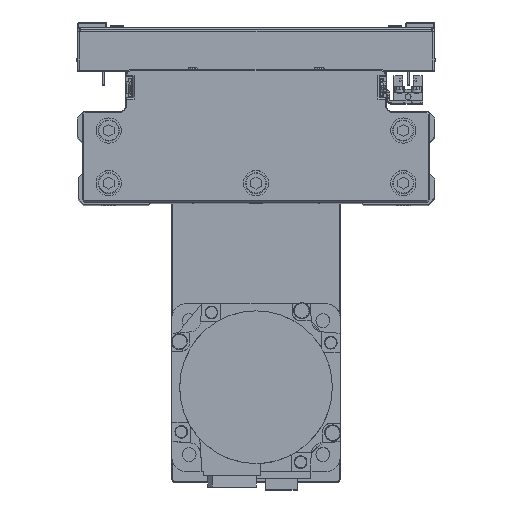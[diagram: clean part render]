
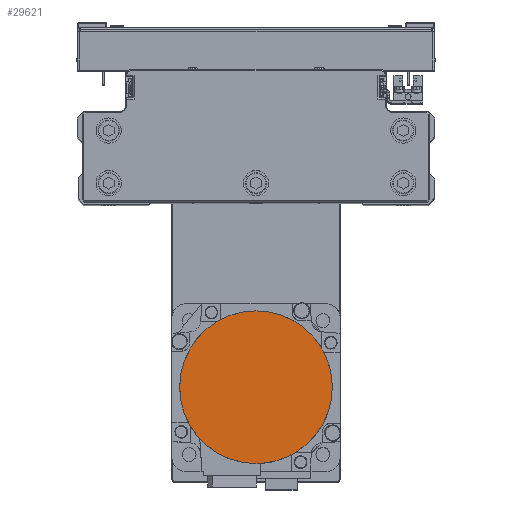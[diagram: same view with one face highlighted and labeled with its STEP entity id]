
A CAD part, top view. The second image highlights one B-rep face of the part: STEP entity #29621.
In plain terms, the highlighted planar face has unit normal (0, 0, 1) as drawn and (0, 0, -1) by its records, which use the part's own axes.
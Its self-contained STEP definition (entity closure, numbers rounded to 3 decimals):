
#630 = ORIENTED_EDGE ( 'NONE', *, *, #15516, .F. ) ;
#635 = CARTESIAN_POINT ( 'NONE',  ( -36.3, 0., -122.2 ) ) ;
#760 = AXIS2_PLACEMENT_3D ( 'NONE', #37415, #7001, #20517 ) ;
#856 = CARTESIAN_POINT ( 'NONE',  ( -11.696, -34.446, -122.2 ) ) ;
#2353 = CARTESIAN_POINT ( 'NONE',  ( -32.628, 16.086, -122.2 ) ) ;
#2495 = VERTEX_POINT ( 'NONE', #17034 ) ;
#2836 = CIRCLE ( 'NONE', #27627, 36.3 ) ;
#4177 = CARTESIAN_POINT ( 'NONE',  ( -22.143, -28.862, -122.2 ) ) ;
#5674 = CARTESIAN_POINT ( 'NONE',  ( -27.348, 23.988, -122.2 ) ) ;
#7001 = DIRECTION ( 'NONE',  ( 0., 0., 1. ) ) ;
#7522 = CARTESIAN_POINT ( 'NONE',  ( -28.862, -22.143, -122.2 ) ) ;
#9007 = CARTESIAN_POINT ( 'NONE',  ( -18.192, 31.502, -122.2 ) ) ;
#10336 = CARTESIAN_POINT ( 'NONE',  ( 36.3, 0., -122.2 ) ) ;
#10349 = FACE_OUTER_BOUND ( 'NONE', #10976, .T. ) ;
#10866 = CARTESIAN_POINT ( 'NONE',  ( -34.446, -11.696, -122.2 ) ) ;
#10976 = EDGE_LOOP ( 'NONE', ( #630, #17175, #14568, #23604 ) ) ;
#11084 = CARTESIAN_POINT ( 'NONE',  ( 0., -36.3, -122.2 ) ) ;
#11110 = AXIS2_PLACEMENT_3D ( 'NONE', #13316, #26839, #40392 ) ;
#12351 = CARTESIAN_POINT ( 'NONE',  ( -9.412, 35.139, -122.2 ) ) ;
#12562 = CARTESIAN_POINT ( 'NONE',  ( -36.3, 2.376, -122.2 ) ) ;
#12763 = DIRECTION ( 'NONE',  ( 0., 0., 1. ) ) ;
#13316 = CARTESIAN_POINT ( 'NONE',  ( 0., 0., -122.2 ) ) ;
#13655 = EDGE_CURVE ( 'NONE', #33750, #2495, #30232, .T. ) ;
#13741 = EDGE_CURVE ( 'NONE', #22368, #21419, #17609, .T. ) ;
#14174 = CARTESIAN_POINT ( 'NONE',  ( -36.3, -2.376, -122.2 ) ) ;
#14406 = CARTESIAN_POINT ( 'NONE',  ( -9.412, -35.139, -122.2 ) ) ;
#14568 = ORIENTED_EDGE ( 'NONE', *, *, #18984, .F. ) ;
#15516 = EDGE_CURVE ( 'NONE', #21419, #33750, #2836, .T. ) ;
#15663 = CARTESIAN_POINT ( 'NONE',  ( 0., 36.3, -122.2 ) ) ;
#15901 = CARTESIAN_POINT ( 'NONE',  ( -34.446, 11.696, -122.2 ) ) ;
#17034 = CARTESIAN_POINT ( 'NONE',  ( 0., 36.3, -122.2 ) ) ;
#17175 = ORIENTED_EDGE ( 'NONE', *, *, #13741, .F. ) ;
#17609 = B_SPLINE_CURVE_WITH_KNOTS ( 'NONE', 3,
 ( #635, #14174, #27700, #41265, #10866, #24389, #37938, #7522, #21041, #34600, #4177, #17713, #31261, #856, #14406, #27942, #41492, #11084 ),
 .UNSPECIFIED., .F., .F.,
 ( 4, 2, 2, 2, 2, 2, 2, 2, 4 ),
 ( 0., 0.125, 0.25, 0.375, 0.5, 0.625, 0.75, 0.875, 1. ),
 .UNSPECIFIED. ) ;
#17713 = CARTESIAN_POINT ( 'NONE',  ( -18.192, -31.502, -122.2 ) ) ;
#18984 = EDGE_CURVE ( 'NONE', #2495, #22368, #32114, .T. ) ;
#19196 = CARTESIAN_POINT ( 'NONE',  ( -28.862, 22.143, -122.2 ) ) ;
#20517 = DIRECTION ( 'NONE',  ( 1., 0., 0. ) ) ;
#21041 = CARTESIAN_POINT ( 'NONE',  ( -27.348, -23.988, -122.2 ) ) ;
#21419 = VERTEX_POINT ( 'NONE', #23765 ) ;
#22368 = VERTEX_POINT ( 'NONE', #28534 ) ;
#22528 = CARTESIAN_POINT ( 'NONE',  ( -22.143, 28.862, -122.2 ) ) ;
#23604 = ORIENTED_EDGE ( 'NONE', *, *, #13655, .F. ) ;
#23765 = CARTESIAN_POINT ( 'NONE',  ( 0., -36.3, -122.2 ) ) ;
#23863 = PLANE ( 'NONE',  #760 ) ;
#24389 = CARTESIAN_POINT ( 'NONE',  ( -32.628, -16.086, -122.2 ) ) ;
#25877 = CARTESIAN_POINT ( 'NONE',  ( -11.696, 34.446, -122.2 ) ) ;
#26088 = CARTESIAN_POINT ( 'NONE',  ( -36.3, 0., -122.2 ) ) ;
#26296 = DIRECTION ( 'NONE',  ( -1., 0., 0. ) ) ;
#26839 = DIRECTION ( 'NONE',  ( 0., 0., 1. ) ) ;
#27627 = AXIS2_PLACEMENT_3D ( 'NONE', #43175, #12763, #26296 ) ;
#27700 = CARTESIAN_POINT ( 'NONE',  ( -36.066, -4.752, -122.2 ) ) ;
#27942 = CARTESIAN_POINT ( 'NONE',  ( -4.752, -36.066, -122.2 ) ) ;
#28534 = CARTESIAN_POINT ( 'NONE',  ( -36.3, 0., -122.2 ) ) ;
#29198 = CARTESIAN_POINT ( 'NONE',  ( -2.376, 36.3, -122.2 ) ) ;
#29429 = CARTESIAN_POINT ( 'NONE',  ( -35.139, 9.412, -122.2 ) ) ;
#29621 = ADVANCED_FACE ( 'NONE', ( #10349 ), #23863, .F. ) ;
#30232 = CIRCLE ( 'NONE', #11110, 36.3 ) ;
#31261 = CARTESIAN_POINT ( 'NONE',  ( -16.086, -32.628, -122.2 ) ) ;
#32114 = B_SPLINE_CURVE_WITH_KNOTS ( 'NONE', 3,
 ( #15663, #29198, #42751, #12351, #25877, #39433, #9007, #22528, #36083, #5674, #19196, #32756, #2353, #15901, #29429, #42968, #12562, #26088 ),
 .UNSPECIFIED., .F., .F.,
 ( 4, 2, 2, 2, 2, 2, 2, 2, 4 ),
 ( 0., 0.125, 0.25, 0.375, 0.5, 0.625, 0.75, 0.875, 1. ),
 .UNSPECIFIED. ) ;
#32756 = CARTESIAN_POINT ( 'NONE',  ( -31.502, 18.192, -122.2 ) ) ;
#33750 = VERTEX_POINT ( 'NONE', #10336 ) ;
#34600 = CARTESIAN_POINT ( 'NONE',  ( -23.988, -27.348, -122.2 ) ) ;
#36083 = CARTESIAN_POINT ( 'NONE',  ( -23.988, 27.348, -122.2 ) ) ;
#37415 = CARTESIAN_POINT ( 'NONE',  ( 0., 0., -122.2 ) ) ;
#37938 = CARTESIAN_POINT ( 'NONE',  ( -31.502, -18.192, -122.2 ) ) ;
#39433 = CARTESIAN_POINT ( 'NONE',  ( -16.086, 32.628, -122.2 ) ) ;
#40392 = DIRECTION ( 'NONE',  ( -1., 0., 0. ) ) ;
#41265 = CARTESIAN_POINT ( 'NONE',  ( -35.139, -9.412, -122.2 ) ) ;
#41492 = CARTESIAN_POINT ( 'NONE',  ( -2.376, -36.3, -122.2 ) ) ;
#42751 = CARTESIAN_POINT ( 'NONE',  ( -4.752, 36.066, -122.2 ) ) ;
#42968 = CARTESIAN_POINT ( 'NONE',  ( -36.066, 4.752, -122.2 ) ) ;
#43175 = CARTESIAN_POINT ( 'NONE',  ( 0., 0., -122.2 ) ) ;
